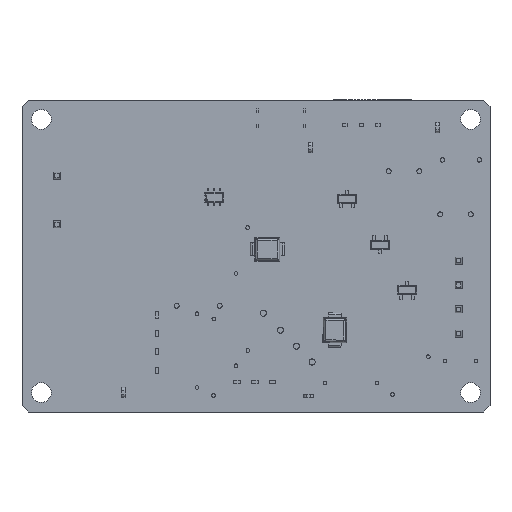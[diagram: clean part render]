
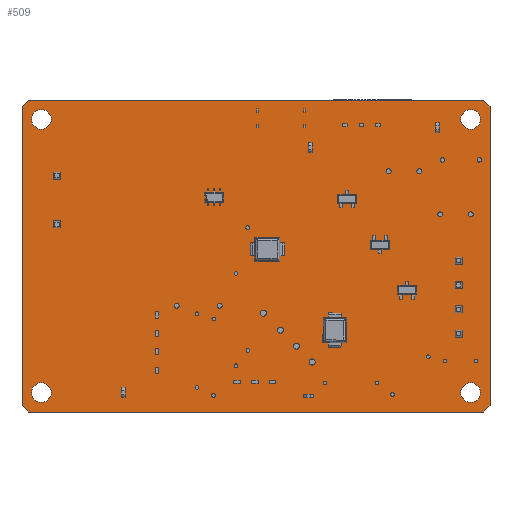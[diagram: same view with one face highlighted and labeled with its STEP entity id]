
A CAD part, front view. The second image highlights one B-rep face of the part: STEP entity #509.
In plain terms, the highlighted planar face has unit normal (0, -1, 0).
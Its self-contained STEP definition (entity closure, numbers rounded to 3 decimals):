
#142=DIRECTION('',(0.,0.,1.));
#143=VECTOR('',#142,48.8);
#144=CARTESIAN_POINT('',(98.574,-1.2,-13.495));
#145=LINE('',#144,#143);
#146=DIRECTION('',(0.707,0.,0.707));
#147=VECTOR('',#146,1.414);
#148=CARTESIAN_POINT('',(97.574,-1.2,-14.495));
#149=LINE('',#148,#147);
#150=DIRECTION('',(1.,0.,0.));
#151=VECTOR('',#150,74.2);
#152=CARTESIAN_POINT('',(23.374,-1.2,-14.495));
#153=LINE('',#152,#151);
#154=DIRECTION('',(0.707,0.,-0.707));
#155=VECTOR('',#154,1.414);
#156=CARTESIAN_POINT('',(22.374,-1.2,-13.495));
#157=LINE('',#156,#155);
#158=DIRECTION('',(0.,0.,-1.));
#159=VECTOR('',#158,48.8);
#160=CARTESIAN_POINT('',(22.374,-1.2,35.305));
#161=LINE('',#160,#159);
#162=DIRECTION('',(-0.707,0.,-0.707));
#163=VECTOR('',#162,1.414);
#164=CARTESIAN_POINT('',(23.374,-1.2,36.305));
#165=LINE('',#164,#163);
#166=DIRECTION('',(-1.,0.,0.));
#167=VECTOR('',#166,74.2);
#168=CARTESIAN_POINT('',(97.574,-1.2,36.305));
#169=LINE('',#168,#167);
#170=DIRECTION('',(-0.707,0.,0.707));
#171=VECTOR('',#170,1.414);
#172=CARTESIAN_POINT('',(98.574,-1.2,35.305));
#173=LINE('',#172,#171);
#174=CARTESIAN_POINT('',(25.524,-1.2,-11.345));
#175=DIRECTION('',(0.,1.,0.));
#176=DIRECTION('',(-1.,0.,0.));
#177=AXIS2_PLACEMENT_3D('',#174,#175,#176);
#179=CARTESIAN_POINT('',(25.524,-1.2,-11.345));
#180=DIRECTION('',(0.,1.,0.));
#181=DIRECTION('',(1.,0.,0.));
#182=AXIS2_PLACEMENT_3D('',#179,#180,#181);
#184=CARTESIAN_POINT('',(25.524,-1.2,33.155));
#185=DIRECTION('',(0.,1.,0.));
#186=DIRECTION('',(-1.,0.,0.));
#187=AXIS2_PLACEMENT_3D('',#184,#185,#186);
#189=CARTESIAN_POINT('',(25.524,-1.2,33.155));
#190=DIRECTION('',(0.,1.,0.));
#191=DIRECTION('',(1.,0.,0.));
#192=AXIS2_PLACEMENT_3D('',#189,#190,#191);
#194=CARTESIAN_POINT('',(95.424,-1.2,33.155));
#195=DIRECTION('',(0.,1.,0.));
#196=DIRECTION('',(-1.,0.,0.));
#197=AXIS2_PLACEMENT_3D('',#194,#195,#196);
#199=CARTESIAN_POINT('',(95.424,-1.2,33.155));
#200=DIRECTION('',(0.,1.,0.));
#201=DIRECTION('',(1.,0.,0.));
#202=AXIS2_PLACEMENT_3D('',#199,#200,#201);
#204=CARTESIAN_POINT('',(95.424,-1.2,-11.345));
#205=DIRECTION('',(0.,1.,0.));
#206=DIRECTION('',(-1.,0.,0.));
#207=AXIS2_PLACEMENT_3D('',#204,#205,#206);
#209=CARTESIAN_POINT('',(95.424,-1.2,-11.345));
#210=DIRECTION('',(0.,1.,0.));
#211=DIRECTION('',(1.,0.,0.));
#212=AXIS2_PLACEMENT_3D('',#209,#210,#211);
#262=CARTESIAN_POINT('',(97.574,-1.2,-14.495));
#263=CARTESIAN_POINT('',(98.574,-1.2,-13.495));
#264=VERTEX_POINT('',#262);
#265=VERTEX_POINT('',#263);
#266=CARTESIAN_POINT('',(23.374,-1.2,-14.495));
#267=VERTEX_POINT('',#266);
#268=CARTESIAN_POINT('',(22.374,-1.2,-13.495));
#269=VERTEX_POINT('',#268);
#270=CARTESIAN_POINT('',(22.374,-1.2,35.305));
#271=VERTEX_POINT('',#270);
#272=CARTESIAN_POINT('',(23.374,-1.2,36.305));
#273=VERTEX_POINT('',#272);
#274=CARTESIAN_POINT('',(97.574,-1.2,36.305));
#275=VERTEX_POINT('',#274);
#276=CARTESIAN_POINT('',(98.574,-1.2,35.305));
#277=VERTEX_POINT('',#276);
#282=CARTESIAN_POINT('',(23.924,-1.2,-11.345));
#283=CARTESIAN_POINT('',(27.124,-1.2,-11.345));
#284=VERTEX_POINT('',#282);
#285=VERTEX_POINT('',#283);
#290=CARTESIAN_POINT('',(23.924,-1.2,33.155));
#291=CARTESIAN_POINT('',(27.124,-1.2,33.155));
#292=VERTEX_POINT('',#290);
#293=VERTEX_POINT('',#291);
#298=CARTESIAN_POINT('',(93.824,-1.2,33.155));
#299=CARTESIAN_POINT('',(97.024,-1.2,33.155));
#300=VERTEX_POINT('',#298);
#301=VERTEX_POINT('',#299);
#306=CARTESIAN_POINT('',(93.824,-1.2,-11.345));
#307=CARTESIAN_POINT('',(97.024,-1.2,-11.345));
#308=VERTEX_POINT('',#306);
#309=VERTEX_POINT('',#307);
#470=CARTESIAN_POINT('',(0.,-1.2,0.));
#471=DIRECTION('',(0.,1.,0.));
#472=DIRECTION('',(-1.,0.,0.));
#473=AXIS2_PLACEMENT_3D('',#470,#471,#472);
#474=PLANE('',#473);
#475=ORIENTED_EDGE('',*,*,#396,.F.);
#476=ORIENTED_EDGE('',*,*,#382,.F.);
#477=ORIENTED_EDGE('',*,*,#368,.F.);
#478=ORIENTED_EDGE('',*,*,#465,.F.);
#479=ORIENTED_EDGE('',*,*,#452,.F.);
#480=ORIENTED_EDGE('',*,*,#438,.F.);
#481=ORIENTED_EDGE('',*,*,#424,.F.);
#482=ORIENTED_EDGE('',*,*,#410,.F.);
#483=EDGE_LOOP('',(#475,#476,#477,#478,#479,#480,#481,#482));
#484=FACE_OUTER_BOUND('',#483,.F.);
#486=ORIENTED_EDGE('',*,*,#485,.F.);
#488=ORIENTED_EDGE('',*,*,#487,.F.);
#489=EDGE_LOOP('',(#486,#488));
#490=FACE_BOUND('',#489,.F.);
#492=ORIENTED_EDGE('',*,*,#491,.F.);
#494=ORIENTED_EDGE('',*,*,#493,.F.);
#495=EDGE_LOOP('',(#492,#494));
#496=FACE_BOUND('',#495,.F.);
#498=ORIENTED_EDGE('',*,*,#497,.F.);
#500=ORIENTED_EDGE('',*,*,#499,.F.);
#501=EDGE_LOOP('',(#498,#500));
#502=FACE_BOUND('',#501,.F.);
#504=ORIENTED_EDGE('',*,*,#503,.F.);
#506=ORIENTED_EDGE('',*,*,#505,.F.);
#507=EDGE_LOOP('',(#504,#506));
#508=FACE_BOUND('',#507,.F.);
#178=CIRCLE('',#177,1.6);
#183=CIRCLE('',#182,1.6);
#188=CIRCLE('',#187,1.6);
#193=CIRCLE('',#192,1.6);
#198=CIRCLE('',#197,1.6);
#203=CIRCLE('',#202,1.6);
#208=CIRCLE('',#207,1.6);
#213=CIRCLE('',#212,1.6);
#368=EDGE_CURVE('',#267,#264,#153,.T.);
#382=EDGE_CURVE('',#264,#265,#149,.T.);
#396=EDGE_CURVE('',#265,#277,#145,.T.);
#410=EDGE_CURVE('',#277,#275,#173,.T.);
#424=EDGE_CURVE('',#275,#273,#169,.T.);
#438=EDGE_CURVE('',#273,#271,#165,.T.);
#452=EDGE_CURVE('',#271,#269,#161,.T.);
#465=EDGE_CURVE('',#269,#267,#157,.T.);
#485=EDGE_CURVE('',#284,#285,#178,.T.);
#487=EDGE_CURVE('',#285,#284,#183,.T.);
#491=EDGE_CURVE('',#292,#293,#188,.T.);
#493=EDGE_CURVE('',#293,#292,#193,.T.);
#497=EDGE_CURVE('',#300,#301,#198,.T.);
#499=EDGE_CURVE('',#301,#300,#203,.T.);
#503=EDGE_CURVE('',#308,#309,#208,.T.);
#505=EDGE_CURVE('',#309,#308,#213,.T.);
#509=ADVANCED_FACE('',(#484,#490,#496,#502,#508),#474,.F.);
